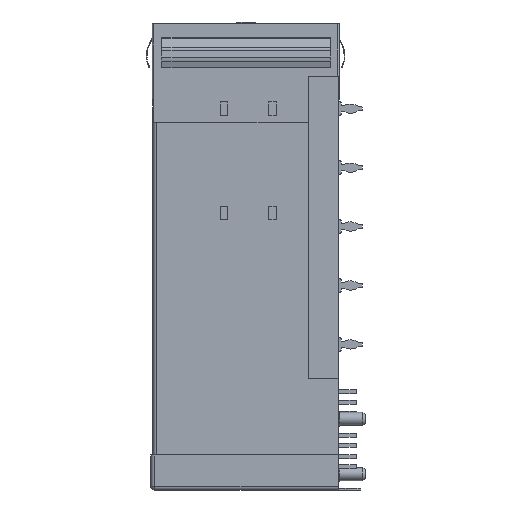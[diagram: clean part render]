
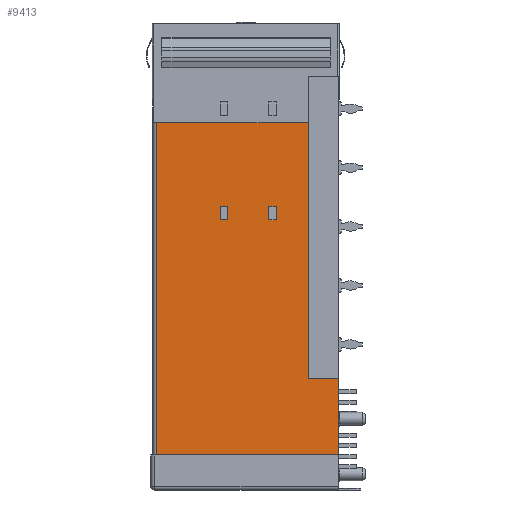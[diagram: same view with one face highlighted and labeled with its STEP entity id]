
A CAD part, left-side view. The second image highlights one B-rep face of the part: STEP entity #9413.
In plain terms, the highlighted planar face has unit normal (-1, 0, 0).
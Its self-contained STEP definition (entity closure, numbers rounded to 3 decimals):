
#316 = DIRECTION ( 'NONE',  ( 0., 1., 0. ) ) ;
#870 = FACE_BOUND ( 'NONE', #8689, .T. ) ;
#1203 = CARTESIAN_POINT ( 'NONE',  ( -7.25, 4.1, -48.1 ) ) ;
#1278 = EDGE_CURVE ( 'NONE', #17420, #4387, #21043, .T. ) ;
#1343 = VECTOR ( 'NONE', #11469, 1000. ) ;
#1439 = LINE ( 'NONE', #8139, #5944 ) ;
#1626 = EDGE_CURVE ( 'NONE', #2270, #7025, #14863, .T. ) ;
#1827 = CARTESIAN_POINT ( 'NONE',  ( -7.25, 24.7, -63.25 ) ) ;
#2147 = VECTOR ( 'NONE', #13975, 1000. ) ;
#2265 = CARTESIAN_POINT ( 'NONE',  ( -7.25, 8.45, -24.8 ) ) ;
#2270 = VERTEX_POINT ( 'NONE', #2474 ) ;
#2375 = EDGE_LOOP ( 'NONE', ( #19894, #3980, #6787, #6398 ) ) ;
#2474 = CARTESIAN_POINT ( 'NONE',  ( -7.25, 16., -26.6 ) ) ;
#2622 = VERTEX_POINT ( 'NONE', #9179 ) ;
#2839 = ORIENTED_EDGE ( 'NONE', *, *, #14175, .T. ) ;
#3144 = DIRECTION ( 'NONE',  ( 0., -1., 0. ) ) ;
#3327 = VERTEX_POINT ( 'NONE', #13406 ) ;
#3396 = EDGE_CURVE ( 'NONE', #23155, #4387, #16441, .T. ) ;
#3980 = ORIENTED_EDGE ( 'NONE', *, *, #14824, .T. ) ;
#4005 = VECTOR ( 'NONE', #316, 1000. ) ;
#4235 = DIRECTION ( 'NONE',  ( 0., 1., 0. ) ) ;
#4387 = VERTEX_POINT ( 'NONE', #15173 ) ;
#4613 = DIRECTION ( 'NONE',  ( 0., 0., 1. ) ) ;
#4729 = DIRECTION ( 'NONE',  ( 0., 0., 1. ) ) ;
#5290 = CARTESIAN_POINT ( 'NONE',  ( -7.25, 25.2, -13.4 ) ) ;
#5394 = PLANE ( 'NONE',  #13425 ) ;
#5751 = EDGE_CURVE ( 'NONE', #23141, #17804, #15989, .T. ) ;
#5944 = VECTOR ( 'NONE', #20698, 1000. ) ;
#6142 = VECTOR ( 'NONE', #3144, 1000. ) ;
#6246 = LINE ( 'NONE', #22297, #19185 ) ;
#6257 = CARTESIAN_POINT ( 'NONE',  ( -7.25, 25.2, -58.5 ) ) ;
#6398 = ORIENTED_EDGE ( 'NONE', *, *, #7524, .T. ) ;
#6429 = LINE ( 'NONE', #1827, #14587 ) ;
#6574 = DIRECTION ( 'NONE',  ( 0., -1., 0. ) ) ;
#6787 = ORIENTED_EDGE ( 'NONE', *, *, #21629, .T. ) ;
#6984 = CARTESIAN_POINT ( 'NONE',  ( -7.25, 16., -24.8 ) ) ;
#7025 = VERTEX_POINT ( 'NONE', #10175 ) ;
#7524 = EDGE_CURVE ( 'NONE', #22716, #22508, #11364, .T. ) ;
#7781 = ORIENTED_EDGE ( 'NONE', *, *, #11148, .T. ) ;
#7862 = ORIENTED_EDGE ( 'NONE', *, *, #13556, .T. ) ;
#8092 = VECTOR ( 'NONE', #4729, 1000. ) ;
#8139 = CARTESIAN_POINT ( 'NONE',  ( -7.25, 9.45, -24.8 ) ) ;
#8208 = CARTESIAN_POINT ( 'NONE',  ( -7.25, 0., -58.5 ) ) ;
#8649 = VERTEX_POINT ( 'NONE', #20651 ) ;
#8689 = EDGE_LOOP ( 'NONE', ( #2839, #20372, #16631, #21000 ) ) ;
#9179 = CARTESIAN_POINT ( 'NONE',  ( -7.25, 15., -24.8 ) ) ;
#9350 = EDGE_CURVE ( 'NONE', #22508, #19449, #1439, .T. ) ;
#9413 = ADVANCED_FACE ( 'NONE', ( #14389, #870, #19151 ), #5394, .T. ) ;
#9478 = VECTOR ( 'NONE', #21889, 1000. ) ;
#9992 = DIRECTION ( 'NONE',  ( 0., 0., 1. ) ) ;
#10175 = CARTESIAN_POINT ( 'NONE',  ( -7.25, 16., -24.8 ) ) ;
#10334 = LINE ( 'NONE', #6984, #6142 ) ;
#10631 = DIRECTION ( 'NONE',  ( 0., 0., 1. ) ) ;
#10883 = VECTOR ( 'NONE', #13779, 1000. ) ;
#11148 = EDGE_CURVE ( 'NONE', #17804, #23155, #15851, .T. ) ;
#11292 = EDGE_CURVE ( 'NONE', #3327, #2270, #6246, .T. ) ;
#11364 = LINE ( 'NONE', #13799, #17015 ) ;
#11469 = DIRECTION ( 'NONE',  ( 0., 0., 1. ) ) ;
#11643 = ORIENTED_EDGE ( 'NONE', *, *, #3396, .T. ) ;
#11979 = LINE ( 'NONE', #23210, #2147 ) ;
#12607 = LINE ( 'NONE', #6257, #22748 ) ;
#12843 = ORIENTED_EDGE ( 'NONE', *, *, #5751, .T. ) ;
#12867 = CARTESIAN_POINT ( 'NONE',  ( -7.25, 0., -48.1 ) ) ;
#13228 = CARTESIAN_POINT ( 'NONE',  ( -7.25, 0., -63.25 ) ) ;
#13263 = DIRECTION ( 'NONE',  ( 0., 1., 0. ) ) ;
#13406 = CARTESIAN_POINT ( 'NONE',  ( -7.25, 15., -26.6 ) ) ;
#13425 = AXIS2_PLACEMENT_3D ( 'NONE', #15548, #16017, #10631 ) ;
#13489 = EDGE_LOOP ( 'NONE', ( #16842, #14976, #7862, #12843, #7781, #11643 ) ) ;
#13556 = EDGE_CURVE ( 'NONE', #19221, #23141, #12607, .T. ) ;
#13779 = DIRECTION ( 'NONE',  ( 0., -1., 0. ) ) ;
#13799 = CARTESIAN_POINT ( 'NONE',  ( -7.25, 9.45, -24.8 ) ) ;
#13975 = DIRECTION ( 'NONE',  ( 0., 0., -1. ) ) ;
#14175 = EDGE_CURVE ( 'NONE', #7025, #2622, #10334, .T. ) ;
#14389 = FACE_BOUND ( 'NONE', #2375, .T. ) ;
#14441 = DIRECTION ( 'NONE',  ( 0., 0., -1. ) ) ;
#14524 = EDGE_CURVE ( 'NONE', #2622, #3327, #15698, .T. ) ;
#14587 = VECTOR ( 'NONE', #14441, 1000. ) ;
#14824 = EDGE_CURVE ( 'NONE', #19449, #8649, #11979, .T. ) ;
#14863 = LINE ( 'NONE', #15343, #8092 ) ;
#14976 = ORIENTED_EDGE ( 'NONE', *, *, #17597, .T. ) ;
#15051 = VECTOR ( 'NONE', #4613, 1000. ) ;
#15173 = CARTESIAN_POINT ( 'NONE',  ( -7.25, 4.1, -13.4 ) ) ;
#15343 = CARTESIAN_POINT ( 'NONE',  ( -7.25, 16., -24.8 ) ) ;
#15548 = CARTESIAN_POINT ( 'NONE',  ( -7.25, 0., -63.25 ) ) ;
#15552 = CARTESIAN_POINT ( 'NONE',  ( -7.25, 4.1, -7.1 ) ) ;
#15698 = LINE ( 'NONE', #21810, #9478 ) ;
#15851 = LINE ( 'NONE', #12867, #4005 ) ;
#15989 = LINE ( 'NONE', #13228, #1343 ) ;
#16017 = DIRECTION ( 'NONE',  ( -1., 0., 0. ) ) ;
#16441 = LINE ( 'NONE', #15552, #15051 ) ;
#16631 = ORIENTED_EDGE ( 'NONE', *, *, #11292, .T. ) ;
#16842 = ORIENTED_EDGE ( 'NONE', *, *, #1278, .F. ) ;
#17009 = CARTESIAN_POINT ( 'NONE',  ( -7.25, 0., -48.1 ) ) ;
#17015 = VECTOR ( 'NONE', #9992, 1000. ) ;
#17358 = CARTESIAN_POINT ( 'NONE',  ( -7.25, 9.45, -24.8 ) ) ;
#17420 = VERTEX_POINT ( 'NONE', #19299 ) ;
#17597 = EDGE_CURVE ( 'NONE', #17420, #19221, #6429, .T. ) ;
#17804 = VERTEX_POINT ( 'NONE', #17009 ) ;
#18693 = CARTESIAN_POINT ( 'NONE',  ( -7.25, 9.45, -26.6 ) ) ;
#19151 = FACE_OUTER_BOUND ( 'NONE', #13489, .T. ) ;
#19185 = VECTOR ( 'NONE', #4235, 1000. ) ;
#19221 = VERTEX_POINT ( 'NONE', #23135 ) ;
#19299 = CARTESIAN_POINT ( 'NONE',  ( -7.25, 24.7, -13.4 ) ) ;
#19309 = CARTESIAN_POINT ( 'NONE',  ( -7.25, 9.45, -26.6 ) ) ;
#19449 = VERTEX_POINT ( 'NONE', #2265 ) ;
#19467 = LINE ( 'NONE', #18693, #20845 ) ;
#19894 = ORIENTED_EDGE ( 'NONE', *, *, #9350, .T. ) ;
#20372 = ORIENTED_EDGE ( 'NONE', *, *, #14524, .T. ) ;
#20651 = CARTESIAN_POINT ( 'NONE',  ( -7.25, 8.45, -26.6 ) ) ;
#20698 = DIRECTION ( 'NONE',  ( 0., -1., 0. ) ) ;
#20845 = VECTOR ( 'NONE', #13263, 1000. ) ;
#21000 = ORIENTED_EDGE ( 'NONE', *, *, #1626, .T. ) ;
#21043 = LINE ( 'NONE', #5290, #10883 ) ;
#21629 = EDGE_CURVE ( 'NONE', #8649, #22716, #19467, .T. ) ;
#21810 = CARTESIAN_POINT ( 'NONE',  ( -7.25, 15., -24.8 ) ) ;
#21889 = DIRECTION ( 'NONE',  ( 0., 0., -1. ) ) ;
#22297 = CARTESIAN_POINT ( 'NONE',  ( -7.25, 16., -26.6 ) ) ;
#22508 = VERTEX_POINT ( 'NONE', #17358 ) ;
#22716 = VERTEX_POINT ( 'NONE', #19309 ) ;
#22748 = VECTOR ( 'NONE', #6574, 1000. ) ;
#23135 = CARTESIAN_POINT ( 'NONE',  ( -7.25, 24.7, -58.5 ) ) ;
#23141 = VERTEX_POINT ( 'NONE', #8208 ) ;
#23155 = VERTEX_POINT ( 'NONE', #1203 ) ;
#23210 = CARTESIAN_POINT ( 'NONE',  ( -7.25, 8.45, -24.8 ) ) ;
